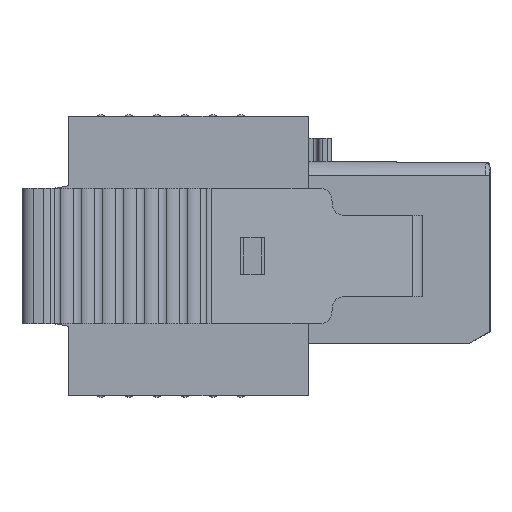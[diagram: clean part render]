
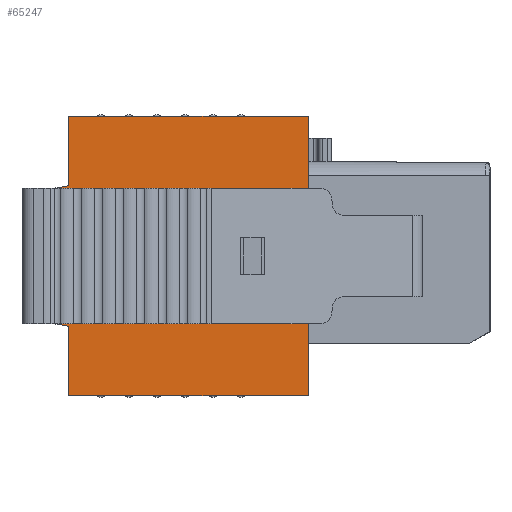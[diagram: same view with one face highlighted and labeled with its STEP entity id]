
A CAD part, left-side view. The second image highlights one B-rep face of the part: STEP entity #65247.
In plain terms, the highlighted planar face has unit normal (-1, 0, 0).
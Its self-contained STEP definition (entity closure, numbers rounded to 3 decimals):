
#1259=DIRECTION('',(0.,0.,1.));
#1260=VECTOR('',#1259,1.64);
#1261=CARTESIAN_POINT('',(-33.58,18.1,-0.82));
#1262=LINE('',#1261,#1260);
#1583=DIRECTION('',(0.,0.984,-0.179));
#1584=VECTOR('',#1583,0.868);
#1585=CARTESIAN_POINT('',(-33.58,18.1,3.02));
#1586=LINE('',#1585,#1584);
#4361=DIRECTION('',(0.,0.,1.));
#4362=VECTOR('',#4361,12.);
#4363=CARTESIAN_POINT('',(-33.58,7.8,-6.));
#4364=LINE('',#4363,#4362);
#17289=DIRECTION('',(0.,0.,1.));
#17290=VECTOR('',#17289,0.7);
#17291=CARTESIAN_POINT('',(-33.58,18.1,1.2));
#17292=LINE('',#17291,#17290);
#17293=DIRECTION('',(0.,-1.,0.));
#17294=VECTOR('',#17293,7.2);
#17295=CARTESIAN_POINT('',(-33.58,18.1,-1.2));
#17296=LINE('',#17295,#17294);
#17297=DIRECTION('',(0.,0.,1.));
#17298=VECTOR('',#17297,0.7);
#17299=CARTESIAN_POINT('',(-33.58,18.1,-1.9));
#17300=LINE('',#17299,#17298);
#17301=DIRECTION('',(0.,1.,0.));
#17302=VECTOR('',#17301,8.45);
#17303=CARTESIAN_POINT('',(-33.58,9.65,-1.9));
#17304=LINE('',#17303,#17302);
#17305=DIRECTION('',(0.,0.,1.));
#17306=VECTOR('',#17305,3.8);
#17307=CARTESIAN_POINT('',(-33.58,9.65,-1.9));
#17308=LINE('',#17307,#17306);
#17309=DIRECTION('',(0.,1.,0.));
#17310=VECTOR('',#17309,8.45);
#17311=CARTESIAN_POINT('',(-33.58,9.65,1.9));
#17312=LINE('',#17311,#17310);
#17313=DIRECTION('',(0.,0.984,-0.179));
#17314=VECTOR('',#17313,0.868);
#17315=CARTESIAN_POINT('',(-33.58,18.1,-0.82));
#17316=LINE('',#17315,#17314);
#17317=DIRECTION('',(0.,-0.984,-0.179));
#17318=VECTOR('',#17317,0.868);
#17319=CARTESIAN_POINT('',(-33.58,18.954,0.975));
#17320=LINE('',#17319,#17318);
#17321=CARTESIAN_POINT('',(-33.58,18.9,1.27));
#17322=DIRECTION('',(1.,0.,0.));
#17323=DIRECTION('',(0.,0.179,-0.984));
#17324=AXIS2_PLACEMENT_3D('',#17321,#17322,#17323);
#17326=DIRECTION('',(0.,0.,-1.));
#17327=VECTOR('',#17326,1.299);
#17328=CARTESIAN_POINT('',(-33.58,19.2,2.57));
#17329=LINE('',#17328,#17327);
#17330=CARTESIAN_POINT('',(-33.58,18.9,2.57));
#17331=DIRECTION('',(1.,0.,0.));
#17332=DIRECTION('',(0.,1.,0.));
#17333=AXIS2_PLACEMENT_3D('',#17330,#17331,#17332);
#17335=DIRECTION('',(0.,0.,-1.));
#17336=VECTOR('',#17335,2.98);
#17337=CARTESIAN_POINT('',(-33.58,18.1,6.));
#17338=LINE('',#17337,#17336);
#17339=DIRECTION('',(0.,1.,0.));
#17340=VECTOR('',#17339,10.3);
#17341=CARTESIAN_POINT('',(-33.58,7.8,6.));
#17342=LINE('',#17341,#17340);
#17343=DIRECTION('',(0.,-1.,0.));
#17344=VECTOR('',#17343,10.3);
#17345=CARTESIAN_POINT('',(-33.58,18.1,-6.));
#17346=LINE('',#17345,#17344);
#17347=DIRECTION('',(0.,0.,-1.));
#17348=VECTOR('',#17347,2.98);
#17349=CARTESIAN_POINT('',(-33.58,18.1,-3.02));
#17350=LINE('',#17349,#17348);
#17351=CARTESIAN_POINT('',(-33.58,18.9,-2.57));
#17352=DIRECTION('',(1.,0.,0.));
#17353=DIRECTION('',(0.,0.179,-0.984));
#17354=AXIS2_PLACEMENT_3D('',#17351,#17352,#17353);
#17356=DIRECTION('',(0.,0.,-1.));
#17357=VECTOR('',#17356,1.299);
#17358=CARTESIAN_POINT('',(-33.58,19.2,-1.27));
#17359=LINE('',#17358,#17357);
#17360=CARTESIAN_POINT('',(-33.58,18.9,-1.27));
#17361=DIRECTION('',(1.,0.,0.));
#17362=DIRECTION('',(0.,1.,0.));
#17363=AXIS2_PLACEMENT_3D('',#17360,#17361,#17362);
#17365=DIRECTION('',(0.,-1.,0.));
#17366=VECTOR('',#17365,7.2);
#17367=CARTESIAN_POINT('',(-33.58,18.1,1.2));
#17368=LINE('',#17367,#17366);
#17377=DIRECTION('',(0.,0.,1.));
#17378=VECTOR('',#17377,2.4);
#17379=CARTESIAN_POINT('',(-33.58,10.9,-1.2));
#17380=LINE('',#17379,#17378);
#19209=DIRECTION('',(0.,-0.984,-0.179));
#19210=VECTOR('',#19209,0.868);
#19211=CARTESIAN_POINT('',(-33.58,18.954,-2.865));
#19212=LINE('',#19211,#19210);
#41182=CARTESIAN_POINT('',(-33.58,18.1,-6.));
#41183=CARTESIAN_POINT('',(-33.58,7.8,-6.));
#41184=VERTEX_POINT('',#41182);
#41185=VERTEX_POINT('',#41183);
#41186=CARTESIAN_POINT('',(-33.58,18.1,-3.02));
#41187=VERTEX_POINT('',#41186);
#41188=CARTESIAN_POINT('',(-33.58,18.1,6.));
#41189=CARTESIAN_POINT('',(-33.58,18.1,3.02));
#41190=VERTEX_POINT('',#41188);
#41191=VERTEX_POINT('',#41189);
#41192=CARTESIAN_POINT('',(-33.58,7.8,6.));
#41193=VERTEX_POINT('',#41192);
#42081=CARTESIAN_POINT('',(-33.58,19.2,2.57));
#42082=CARTESIAN_POINT('',(-33.58,19.2,1.27));
#42083=VERTEX_POINT('',#42081);
#42084=VERTEX_POINT('',#42082);
#42085=CARTESIAN_POINT('',(-33.58,18.954,0.975));
#42086=VERTEX_POINT('',#42085);
#42087=CARTESIAN_POINT('',(-33.58,19.2,-1.27));
#42088=CARTESIAN_POINT('',(-33.58,18.954,-0.975));
#42089=VERTEX_POINT('',#42087);
#42090=VERTEX_POINT('',#42088);
#42091=CARTESIAN_POINT('',(-33.58,19.2,-2.57));
#42092=VERTEX_POINT('',#42091);
#42093=CARTESIAN_POINT('',(-33.58,18.954,-2.865));
#42094=VERTEX_POINT('',#42093);
#42095=CARTESIAN_POINT('',(-33.58,18.954,2.865));
#42096=VERTEX_POINT('',#42095);
#47507=CARTESIAN_POINT('',(-33.58,9.65,-1.9));
#47508=VERTEX_POINT('',#47507);
#47510=CARTESIAN_POINT('',(-33.58,18.1,-1.9));
#47512=VERTEX_POINT('',#47510);
#47513=CARTESIAN_POINT('',(-33.58,9.65,1.9));
#47514=VERTEX_POINT('',#47513);
#47516=CARTESIAN_POINT('',(-33.58,18.1,1.9));
#47518=VERTEX_POINT('',#47516);
#47755=CARTESIAN_POINT('',(-33.58,10.9,-1.2));
#47756=CARTESIAN_POINT('',(-33.58,10.9,1.2));
#47757=VERTEX_POINT('',#47755);
#47758=VERTEX_POINT('',#47756);
#47763=CARTESIAN_POINT('',(-33.58,18.1,-1.2));
#47764=VERTEX_POINT('',#47763);
#47765=CARTESIAN_POINT('',(-33.58,18.1,1.2));
#47766=VERTEX_POINT('',#47765);
#47863=CARTESIAN_POINT('',(-33.58,18.1,-0.82));
#47864=CARTESIAN_POINT('',(-33.58,18.1,0.82));
#47865=VERTEX_POINT('',#47863);
#47866=VERTEX_POINT('',#47864);
#65202=CARTESIAN_POINT('',(-33.58,0.,0.));
#65203=DIRECTION('',(1.,0.,0.));
#65204=DIRECTION('',(0.,0.,-1.));
#65205=AXIS2_PLACEMENT_3D('',#65202,#65203,#65204);
#65206=PLANE('',#65205);
#65208=ORIENTED_EDGE('',*,*,#65207,.F.);
#65209=ORIENTED_EDGE('',*,*,#49945,.T.);
#65210=ORIENTED_EDGE('',*,*,#50979,.F.);
#65211=ORIENTED_EDGE('',*,*,#51823,.T.);
#65212=ORIENTED_EDGE('',*,*,#51627,.F.);
#65213=ORIENTED_EDGE('',*,*,#51418,.T.);
#65214=ORIENTED_EDGE('',*,*,#51209,.F.);
#65215=ORIENTED_EDGE('',*,*,#49977,.F.);
#65216=ORIENTED_EDGE('',*,*,#64099,.F.);
#65217=ORIENTED_EDGE('',*,*,#53949,.F.);
#65219=ORIENTED_EDGE('',*,*,#65218,.F.);
#65220=ORIENTED_EDGE('',*,*,#49953,.F.);
#65222=ORIENTED_EDGE('',*,*,#65221,.F.);
#65224=ORIENTED_EDGE('',*,*,#65223,.T.);
#65226=ORIENTED_EDGE('',*,*,#65225,.F.);
#65228=ORIENTED_EDGE('',*,*,#65227,.T.);
#65229=EDGE_LOOP('',(#65208,#65209,#65210,#65211,#65212,#65213,#65214,#65215,
#65216,#65217,#65219,#65220,#65222,#65224,#65226,#65228));
#65230=FACE_OUTER_BOUND('',#65229,.F.);
#65231=ORIENTED_EDGE('',*,*,#50754,.F.);
#65233=ORIENTED_EDGE('',*,*,#65232,.T.);
#65235=ORIENTED_EDGE('',*,*,#65234,.F.);
#65237=ORIENTED_EDGE('',*,*,#65236,.F.);
#65238=ORIENTED_EDGE('',*,*,#50774,.F.);
#65240=ORIENTED_EDGE('',*,*,#65239,.F.);
#65242=ORIENTED_EDGE('',*,*,#65241,.T.);
#65244=ORIENTED_EDGE('',*,*,#65243,.T.);
#65245=EDGE_LOOP('',(#65231,#65233,#65235,#65237,#65238,#65240,#65242,#65244));
#65246=FACE_BOUND('',#65245,.F.);
#17325=CIRCLE('',#17324,0.3);
#17334=CIRCLE('',#17333,0.3);
#17355=CIRCLE('',#17354,0.3);
#17364=CIRCLE('',#17363,0.3);
#49945=EDGE_CURVE('',#47865,#47866,#1262,.T.);
#49953=EDGE_CURVE('',#41187,#41184,#17350,.T.);
#49977=EDGE_CURVE('',#41190,#41191,#17338,.T.);
#50754=EDGE_CURVE('',#47766,#47518,#17292,.T.);
#50774=EDGE_CURVE('',#47512,#47764,#17300,.T.);
#50979=EDGE_CURVE('',#42086,#47866,#17320,.T.);
#51209=EDGE_CURVE('',#41191,#42096,#1586,.T.);
#51418=EDGE_CURVE('',#42083,#42096,#17334,.T.);
#51627=EDGE_CURVE('',#42083,#42084,#17329,.T.);
#51823=EDGE_CURVE('',#42086,#42084,#17325,.T.);
#53949=EDGE_CURVE('',#41185,#41193,#4364,.T.);
#64099=EDGE_CURVE('',#41193,#41190,#17342,.T.);
#65207=EDGE_CURVE('',#47865,#42090,#17316,.T.);
#65218=EDGE_CURVE('',#41184,#41185,#17346,.T.);
#65221=EDGE_CURVE('',#42094,#41187,#19212,.T.);
#65223=EDGE_CURVE('',#42094,#42092,#17355,.T.);
#65225=EDGE_CURVE('',#42089,#42092,#17359,.T.);
#65227=EDGE_CURVE('',#42089,#42090,#17364,.T.);
#65232=EDGE_CURVE('',#47766,#47758,#17368,.T.);
#65234=EDGE_CURVE('',#47757,#47758,#17380,.T.);
#65236=EDGE_CURVE('',#47764,#47757,#17296,.T.);
#65239=EDGE_CURVE('',#47508,#47512,#17304,.T.);
#65241=EDGE_CURVE('',#47508,#47514,#17308,.T.);
#65243=EDGE_CURVE('',#47514,#47518,#17312,.T.);
#65247=ADVANCED_FACE('',(#65230,#65246),#65206,.F.);
